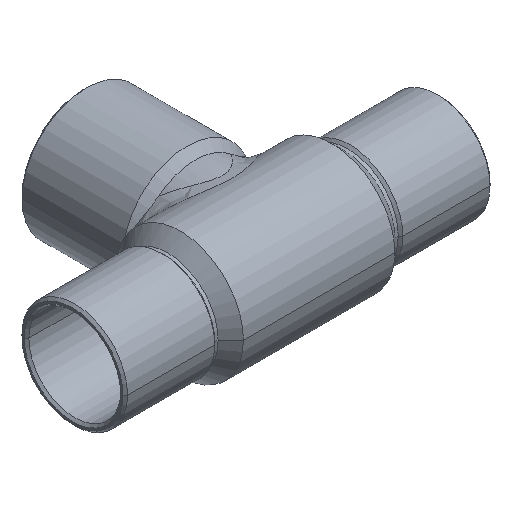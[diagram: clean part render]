
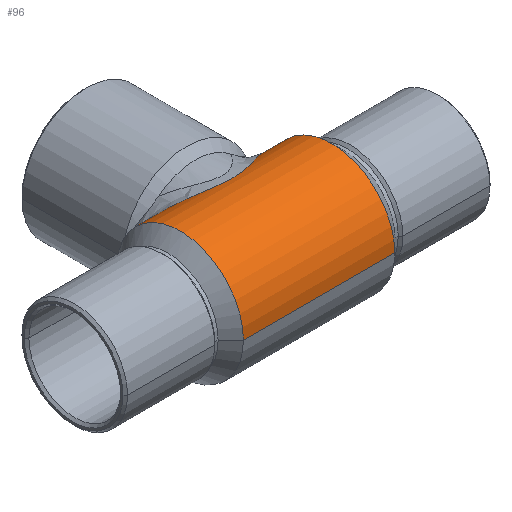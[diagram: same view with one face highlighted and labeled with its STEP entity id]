
A CAD part, isometric view. The second image highlights one B-rep face of the part: STEP entity #96.
In plain terms, the highlighted cylindrical face has radius 5.5 mm (diameter 11 mm), a partial arc.
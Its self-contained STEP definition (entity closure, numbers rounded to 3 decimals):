
#44=CARTESIAN_POINT('',(0.0,0.,0.0));
#45=DIRECTION('',(1.0,0.,0.0));
#46=DIRECTION('',(0.0,1.0,0.0));
#47=AXIS2_PLACEMENT_3D('',#44,#45,#46);
#48=CYLINDRICAL_SURFACE('',#47,5.5);
#49=CARTESIAN_POINT('',(6.6,-5.5,0.));
#50=VERTEX_POINT('',#49);
#51=CARTESIAN_POINT('',(-6.6,-5.5,0.));
#52=VERTEX_POINT('',#51);
#53=CARTESIAN_POINT('',(6.6,-5.5,0.));
#54=DIRECTION('',(-1.0,0.0,0.0));
#55=VECTOR('',#54,13.2);
#56=LINE('',#53,#55);
#57=EDGE_CURVE('',#50,#52,#56,.T.);
#58=ORIENTED_EDGE('',*,*,#57,.F.);
#59=CARTESIAN_POINT('',(6.6,5.298,1.476));
#60=VERTEX_POINT('',#59);
#61=CARTESIAN_POINT('',(6.6,0.,0.0));
#62=DIRECTION('',(-1.0,0.0,0.0));
#63=DIRECTION('',(0.0,1.0,0.0));
#64=AXIS2_PLACEMENT_3D('',#61,#62,#63);
#65=CIRCLE('',#64,5.5);
#66=EDGE_CURVE('',#50,#60,#65,.T.);
#67=ORIENTED_EDGE('',*,*,#66,.T.);
#68=CARTESIAN_POINT('',(-6.6,5.298,1.476));
#69=VERTEX_POINT('',#68);
#70=CARTESIAN_POINT('',(-6.57,5.275,1.475));
#71=CARTESIAN_POINT('',(-6.447,5.195,1.807));
#72=CARTESIAN_POINT('',(-6.28,5.084,2.123));
#73=CARTESIAN_POINT('',(-5.355,4.474,3.373));
#74=CARTESIAN_POINT('',(-4.323,3.785,4.068));
#75=CARTESIAN_POINT('',(-2.015,2.555,4.922));
#76=CARTESIAN_POINT('',(-0.572,1.962,5.147));
#77=CARTESIAN_POINT('',(1.972,2.466,4.922));
#78=CARTESIAN_POINT('',(2.919,3.014,4.643));
#79=CARTESIAN_POINT('',(4.598,3.984,3.844));
#80=CARTESIAN_POINT('',(5.333,4.462,3.309));
#81=CARTESIAN_POINT('',(6.187,5.022,2.277));
#82=CARTESIAN_POINT('',(6.415,5.173,1.884));
#83=CARTESIAN_POINT('',(6.577,5.281,1.467));
#84=B_SPLINE_CURVE_WITH_KNOTS('',3,(#70,#71,#72,#73,#74,#75,#76,#77,#78,#79,#80,#81,#82,#83),.UNSPECIFIED.,.F.,.U.,(4,2,2,2,2,2,4),(0.961,1.062,1.396,1.697,1.944,2.191,2.317),.UNSPECIFIED.);
#85=EDGE_CURVE('',#69,#60,#84,.T.);
#86=ORIENTED_EDGE('',*,*,#85,.F.);
#87=CARTESIAN_POINT('',(-6.6,0.,0.0));
#88=DIRECTION('',(1.0,0.0,0.0));
#89=DIRECTION('',(0.0,1.0,0.0));
#90=AXIS2_PLACEMENT_3D('',#87,#88,#89);
#91=CIRCLE('',#90,5.5);
#92=EDGE_CURVE('',#69,#52,#91,.T.);
#93=ORIENTED_EDGE('',*,*,#92,.T.);
#94=EDGE_LOOP('',(#58,#67,#86,#93));
#95=FACE_OUTER_BOUND('',#94,.T.);
#96=ADVANCED_FACE('',(#95),#48,.T.);
